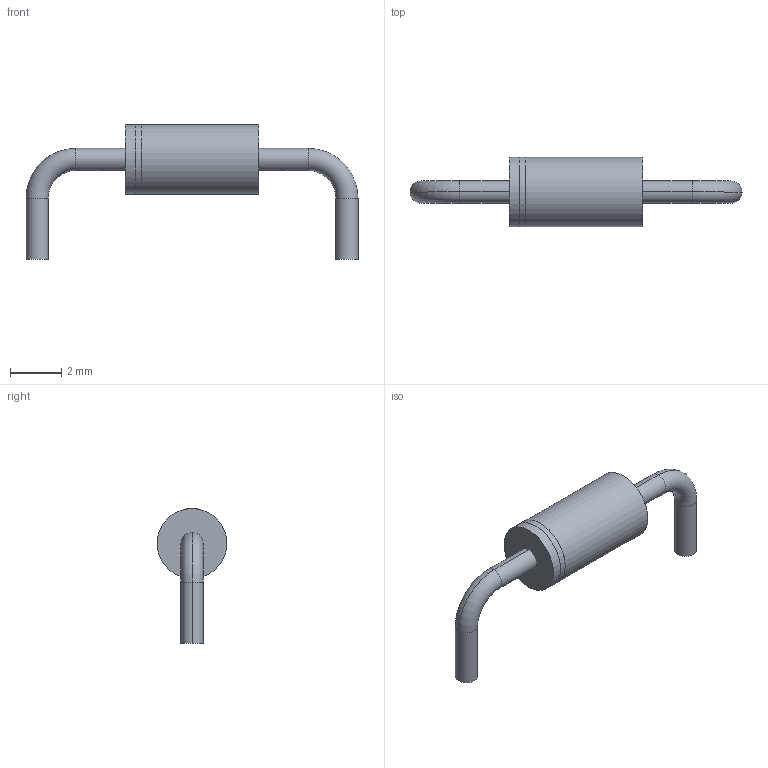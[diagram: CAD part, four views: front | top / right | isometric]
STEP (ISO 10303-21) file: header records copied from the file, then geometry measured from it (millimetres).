
FILE_DESCRIPTION(('STEP AP214'),'1');
FILE_NAME('CR_1N4005_ONS','2025-09-26T09:59:49',(''),(''),'','','');
FILE_SCHEMA(('AUTOMOTIVE_DESIGN'));
Length unit declared in the file: millimetre
Products named in the file (1): product
Bounding box: 12.94 x 2.72 x 5.26 mm (x, y, z)
Volume: 38 mm3; surface area: 99.2 mm2
Topology: 4 solids, 4 shells, 23 faces, 41 edges, 26 vertices
Faces by surface type: cylinder 11, plane 8, torus 4
Full cylindrical faces by diameter (mm): 2.718 x2, 2.723 x1
Entity records: 727 total; most frequent: DIRECTION 118, ORIENTED_EDGE 76, CARTESIAN_POINT 65, AXIS2_PLACEMENT_3D 55, EDGE_CURVE 38, CIRCLE 30, EDGE_LOOP 28, VERTEX_POINT 26
